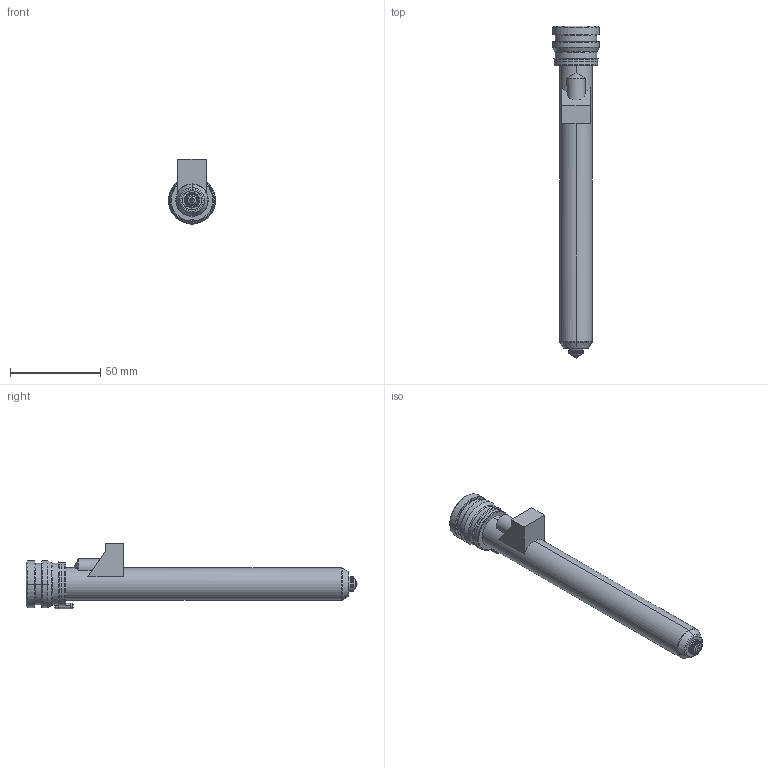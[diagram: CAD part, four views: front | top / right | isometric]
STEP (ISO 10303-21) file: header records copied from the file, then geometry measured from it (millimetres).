
FILE_DESCRIPTION((''),'2;1');
FILE_NAME('TH18166-M-1-PK-JG','2023-12-14T',('umhib'),('Thermoplay S.p.A.'),'PRO/ENGINEER BY PARAMETRIC TECHNOLOGY CORPORATION, 2017170','PRO/ENGINEER BY PARAMETRIC TECHNOLOGY CORPORATION, 2017170','');
FILE_SCHEMA(('CONFIG_CONTROL_DESIGN'));
Length unit declared in the file: millimetre
Products named in the file (1): TH18166-M-1-PK-JG
Bounding box: 26 x 184 x 36.1 mm (x, y, z)
Volume: 36890.8 mm3; surface area: 27768.3 mm2
Topology: 1 solids, 2 shells, 391 faces, 999 edges, 613 vertices
Faces by surface type: cylinder 149, plane 87, cone 62, torus 58, bspline 22, sphere 11, extrusion 2
Entity records: 16788 total; most frequent: CARTESIAN_POINT 5160, DIRECTION 2000, ORIENTED_EDGE 1972, EDGE_CURVE 988, AXIS2_PLACEMENT_3D 806, VERTEX_POINT 613, CIRCLE 438, EDGE_LOOP 414
